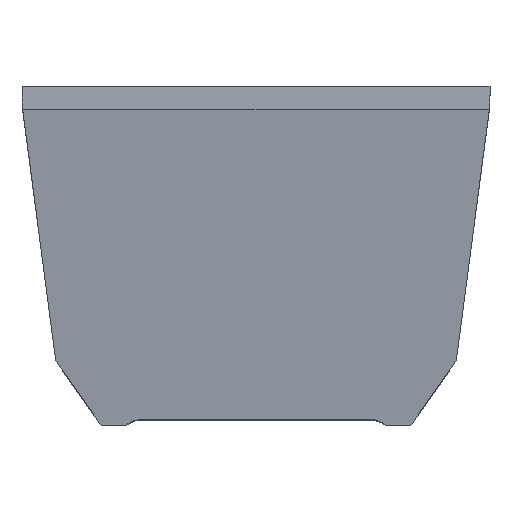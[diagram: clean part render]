
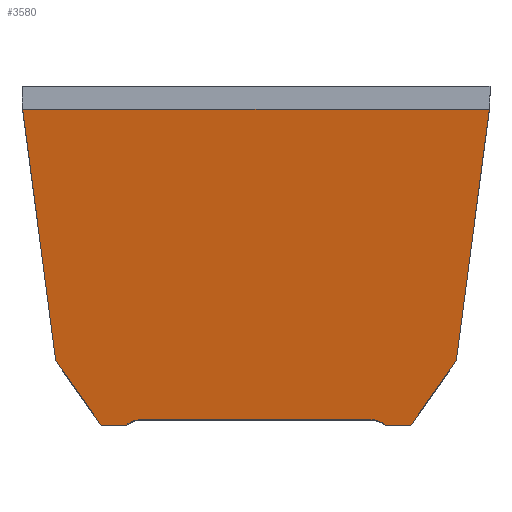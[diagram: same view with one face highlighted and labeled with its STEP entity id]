
A CAD part, top view. The second image highlights one B-rep face of the part: STEP entity #3580.
In plain terms, the highlighted planar face has unit normal (0, -0.147, 0.989).
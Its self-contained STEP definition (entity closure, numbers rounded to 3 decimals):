
#176 = VECTOR ( 'NONE', #3209, 1000. ) ;
#177 = LINE ( 'NONE', #3210, #176 ) ;
#192 = VECTOR ( 'NONE', #3672, 1000. ) ;
#193 = VECTOR ( 'NONE', #3674, 1000. ) ;
#194 = LINE ( 'NONE', #3675, #193 ) ;
#202 = VECTOR ( 'NONE', #3685, 1000. ) ;
#203 = LINE ( 'NONE', #3678, #192 ) ;
#209 = LINE ( 'NONE', #3689, #202 ) ;
#314 = FACE_OUTER_BOUND ( 'NONE', #1034, .T. ) ;
#444 = VECTOR ( 'NONE', #1561, 1000. ) ;
#452 = LINE ( 'NONE', #1593, #444 ) ;
#473 = VECTOR ( 'NONE', #1615, 1000. ) ;
#474 = LINE ( 'NONE', #1616, #473 ) ;
#479 = VECTOR ( 'NONE', #1625, 1000. ) ;
#481 = LINE ( 'NONE', #1641, #479 ) ;
#499 = VECTOR ( 'NONE', #1679, 1000. ) ;
#500 = LINE ( 'NONE', #1680, #499 ) ;
#954 = ORIENTED_EDGE ( 'NONE', *, *, #1389, .F. ) ;
#955 = ORIENTED_EDGE ( 'NONE', *, *, #1295, .F. ) ;
#956 = ORIENTED_EDGE ( 'NONE', *, *, #1202, .F. ) ;
#957 = ORIENTED_EDGE ( 'NONE', *, *, #1375, .F. ) ;
#958 = ORIENTED_EDGE ( 'NONE', *, *, #1206, .F. ) ;
#959 = ORIENTED_EDGE ( 'NONE', *, *, #1386, .T. ) ;
#960 = ORIENTED_EDGE ( 'NONE', *, *, #1228, .F. ) ;
#961 = ORIENTED_EDGE ( 'NONE', *, *, #1250, .F. ) ;
#962 = ORIENTED_EDGE ( 'NONE', *, *, #1226, .F. ) ;
#963 = ORIENTED_EDGE ( 'NONE', *, *, #1411, .T. ) ;
#964 = ORIENTED_EDGE ( 'NONE', *, *, #1387, .F. ) ;
#965 = ORIENTED_EDGE ( 'NONE', *, *, #1247, .F. ) ;
#1034 = EDGE_LOOP ( 'NONE', ( #965, #964, #963, #962, #961, #960, #959, #958, #957, #956, #955, #954 ) ) ;
#1202 = EDGE_CURVE ( 'NONE', #1816, #1814, #1903, .T. ) ;
#1206 = EDGE_CURVE ( 'NONE', #1645, #1580, #500, .T. ) ;
#1226 = EDGE_CURVE ( 'NONE', #1846, #1844, #1906, .T. ) ;
#1228 = EDGE_CURVE ( 'NONE', #1553, #1813, #1901, .T. ) ;
#1238 = AXIS2_PLACEMENT_3D ( 'NONE', #2496, #2486, #2485 ) ;
#1247 = EDGE_CURVE ( 'NONE', #1778, #1828, #481, .T. ) ;
#1250 = EDGE_CURVE ( 'NONE', #1813, #1846, #474, .T. ) ;
#1295 = EDGE_CURVE ( 'NONE', #1796, #1816, #452, .T. ) ;
#1375 = EDGE_CURVE ( 'NONE', #1814, #1645, #209, .T. ) ;
#1386 = EDGE_CURVE ( 'NONE', #1553, #1580, #194, .T. ) ;
#1387 = EDGE_CURVE ( 'NONE', #1575, #1778, #203, .T. ) ;
#1389 = EDGE_CURVE ( 'NONE', #1828, #1796, #1902, .T. ) ;
#1411 = EDGE_CURVE ( 'NONE', #1575, #1844, #177, .T. ) ;
#1553 = VERTEX_POINT ( 'NONE', #3184 ) ;
#1561 = DIRECTION ( 'NONE',  ( 1., 0., 0. ) ) ;
#1575 = VERTEX_POINT ( 'NONE', #3186 ) ;
#1580 = VERTEX_POINT ( 'NONE', #3175 ) ;
#1593 = CARTESIAN_POINT ( 'NONE',  ( -15.25, 56.725, 40.25 ) ) ;
#1615 = DIRECTION ( 'NONE',  ( -1., 0., 0. ) ) ;
#1616 = CARTESIAN_POINT ( 'NONE',  ( -22., -3.21, 31.368 ) ) ;
#1625 = DIRECTION ( 'NONE',  ( -0.129, 0.981, 0.145 ) ) ;
#1641 = CARTESIAN_POINT ( 'NONE',  ( -44.686, 53.369, 39.753 ) ) ;
#1645 = VERTEX_POINT ( 'NONE', #3138 ) ;
#1646 = CARTESIAN_POINT ( 'NONE',  ( 22., -3.21, 31.368 ) ) ;
#1648 = CARTESIAN_POINT ( 'NONE',  ( 23.144, -3.21, 31.368 ) ) ;
#1649 = CARTESIAN_POINT ( 'NONE',  ( 24.223, -3.587, 31.312 ) ) ;
#1656 = CARTESIAN_POINT ( 'NONE',  ( -25.117, -4.3, 31.206 ) ) ;
#1658 = CARTESIAN_POINT ( 'NONE',  ( -24.223, -3.587, 31.312 ) ) ;
#1659 = CARTESIAN_POINT ( 'NONE',  ( -23.144, -3.21, 31.368 ) ) ;
#1663 = CARTESIAN_POINT ( 'NONE',  ( 25.117, -4.3, 31.206 ) ) ;
#1665 = CARTESIAN_POINT ( 'NONE',  ( -22., -3.21, 31.368 ) ) ;
#1679 = DIRECTION ( 'NONE',  ( -0.569, -0.813, -0.121 ) ) ;
#1680 = CARTESIAN_POINT ( 'NONE',  ( 38.099, 7.317, 32.928 ) ) ;
#1693 = CARTESIAN_POINT ( 'NONE',  ( 44.993, 55.7, 40.098 ) ) ;
#1696 = CARTESIAN_POINT ( 'NONE',  ( 45.038, 56.041, 40.149 ) ) ;
#1697 = CARTESIAN_POINT ( 'NONE',  ( 45.077, 56.383, 40.199 ) ) ;
#1708 = CARTESIAN_POINT ( 'NONE',  ( 45.11, 56.725, 40.25 ) ) ;
#1778 = VERTEX_POINT ( 'NONE', #2857 ) ;
#1796 = VERTEX_POINT ( 'NONE', #2786 ) ;
#1813 = VERTEX_POINT ( 'NONE', #2723 ) ;
#1814 = VERTEX_POINT ( 'NONE', #2721 ) ;
#1816 = VERTEX_POINT ( 'NONE', #2710 ) ;
#1828 = VERTEX_POINT ( 'NONE', #2674 ) ;
#1844 = VERTEX_POINT ( 'NONE', #2623 ) ;
#1846 = VERTEX_POINT ( 'NONE', #2619 ) ;
#1901 =( BOUNDED_CURVE ( )  B_SPLINE_CURVE ( 3, ( #1663, #1649, #1648, #1646 ),
 .UNSPECIFIED., .F., .T. ) 
 B_SPLINE_CURVE_WITH_KNOTS ( ( 4, 4 ),
 ( 5.61, 6.283 ),
 .UNSPECIFIED. ) 
 CURVE ( )  GEOMETRIC_REPRESENTATION_ITEM ( )  RATIONAL_B_SPLINE_CURVE ( ( 1., 0.963, 0.963, 1. ) ) 
 REPRESENTATION_ITEM ( '' )  );
#1902 =( BOUNDED_CURVE ( )  B_SPLINE_CURVE ( 3, ( #3692, #3704, #2681, #3245 ),
 .UNSPECIFIED., .F., .T. ) 
 B_SPLINE_CURVE_WITH_KNOTS ( ( 4, 4 ),
 ( 4.581, 4.616 ),
 .UNSPECIFIED. ) 
 CURVE ( )  GEOMETRIC_REPRESENTATION_ITEM ( )  RATIONAL_B_SPLINE_CURVE ( ( 1., 1., 1., 1. ) ) 
 REPRESENTATION_ITEM ( '' )  );
#1903 =( BOUNDED_CURVE ( )  B_SPLINE_CURVE ( 3, ( #1708, #1697, #1696, #1693 ),
 .UNSPECIFIED., .F., .T. ) 
 B_SPLINE_CURVE_WITH_KNOTS ( ( 4, 4 ),
 ( 1.667, 1.702 ),
 .UNSPECIFIED. ) 
 CURVE ( )  GEOMETRIC_REPRESENTATION_ITEM ( )  RATIONAL_B_SPLINE_CURVE ( ( 1., 1., 1., 1. ) ) 
 REPRESENTATION_ITEM ( '' )  );
#1906 =( BOUNDED_CURVE ( )  B_SPLINE_CURVE ( 3, ( #1665, #1659, #1658, #1656 ),
 .UNSPECIFIED., .F., .T. ) 
 B_SPLINE_CURVE_WITH_KNOTS ( ( 4, 4 ),
 ( 0., 0.673 ),
 .UNSPECIFIED. ) 
 CURVE ( )  GEOMETRIC_REPRESENTATION_ITEM ( )  RATIONAL_B_SPLINE_CURVE ( ( 1., 0.963, 0.963, 1. ) ) 
 REPRESENTATION_ITEM ( '' )  );
#2485 = DIRECTION ( 'NONE',  ( 0., -0.989, -0.147 ) ) ;
#2486 = DIRECTION ( 'NONE',  ( 0., 0.147, -0.989 ) ) ;
#2496 = CARTESIAN_POINT ( 'NONE',  ( -195.241, 56.725, 40.25 ) ) ;
#2502 = PLANE ( 'NONE',  #1238 ) ;
#2619 = CARTESIAN_POINT ( 'NONE',  ( -22., -3.21, 31.368 ) ) ;
#2623 = CARTESIAN_POINT ( 'NONE',  ( -25.117, -4.3, 31.206 ) ) ;
#2674 = CARTESIAN_POINT ( 'NONE',  ( -44.993, 55.7, 40.098 ) ) ;
#2681 = CARTESIAN_POINT ( 'NONE',  ( -45.077, 56.383, 40.199 ) ) ;
#2710 = CARTESIAN_POINT ( 'NONE',  ( 45.11, 56.725, 40.25 ) ) ;
#2721 = CARTESIAN_POINT ( 'NONE',  ( 44.993, 55.7, 40.098 ) ) ;
#2723 = CARTESIAN_POINT ( 'NONE',  ( 22., -3.21, 31.368 ) ) ;
#2786 = CARTESIAN_POINT ( 'NONE',  ( -45.11, 56.725, 40.25 ) ) ;
#2857 = CARTESIAN_POINT ( 'NONE',  ( -38.738, 8.23, 33.063 ) ) ;
#3138 = CARTESIAN_POINT ( 'NONE',  ( 38.738, 8.23, 33.063 ) ) ;
#3175 = CARTESIAN_POINT ( 'NONE',  ( 29.972, -4.3, 31.206 ) ) ;
#3184 = CARTESIAN_POINT ( 'NONE',  ( 25.117, -4.3, 31.206 ) ) ;
#3186 = CARTESIAN_POINT ( 'NONE',  ( -29.972, -4.3, 31.206 ) ) ;
#3209 = DIRECTION ( 'NONE',  ( 1., 0., 0. ) ) ;
#3210 = CARTESIAN_POINT ( 'NONE',  ( -195.241, -4.3, 31.206 ) ) ;
#3245 = CARTESIAN_POINT ( 'NONE',  ( -45.11, 56.725, 40.25 ) ) ;
#3580 = ADVANCED_FACE ( 'NONE', ( #314 ), #2502, .F. ) ;
#3672 = DIRECTION ( 'NONE',  ( -0.569, 0.813, 0.121 ) ) ;
#3674 = DIRECTION ( 'NONE',  ( 1., 0., 0. ) ) ;
#3675 = CARTESIAN_POINT ( 'NONE',  ( -195.241, -4.3, 31.206 ) ) ;
#3678 = CARTESIAN_POINT ( 'NONE',  ( -38.099, 7.317, 32.928 ) ) ;
#3685 = DIRECTION ( 'NONE',  ( -0.129, -0.981, -0.145 ) ) ;
#3689 = CARTESIAN_POINT ( 'NONE',  ( 44.686, 53.369, 39.753 ) ) ;
#3692 = CARTESIAN_POINT ( 'NONE',  ( -44.993, 55.7, 40.098 ) ) ;
#3704 = CARTESIAN_POINT ( 'NONE',  ( -45.038, 56.041, 40.149 ) ) ;
